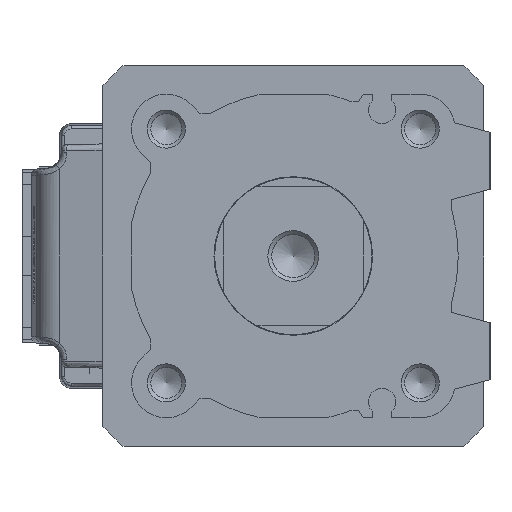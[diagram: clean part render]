
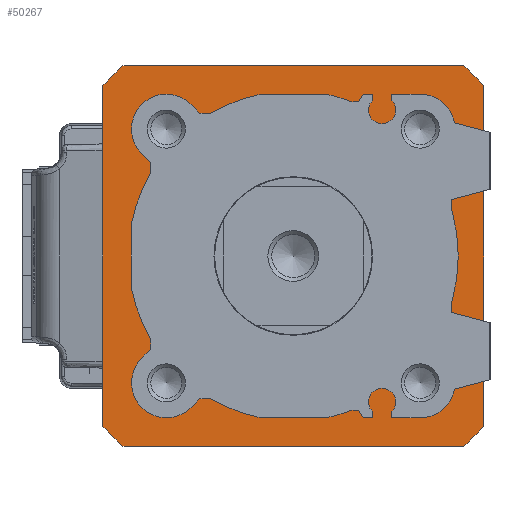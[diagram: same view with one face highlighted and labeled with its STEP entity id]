
A CAD part, left-side view. The second image highlights one B-rep face of the part: STEP entity #50267.
In plain terms, the highlighted planar face has unit normal (-1, 0, 0) as drawn and (0, 0, 1) by its records, which use the part's own axes.
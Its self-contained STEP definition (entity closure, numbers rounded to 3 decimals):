
#111 = AXIS2_PLACEMENT_3D ( 'NONE', #29904, #41138, #6128 ) ;
#1471 = CARTESIAN_POINT ( 'NONE',  ( -30., -26.834, 0. ) ) ;
#1758 = EDGE_CURVE ( 'NONE', #31457, #4411, #25301, .T. ) ;
#3181 = DIRECTION ( 'NONE',  ( -1., 0., 0. ) ) ;
#3407 = DIRECTION ( 'NONE',  ( 0., 0., 1. ) ) ;
#3618 = ORIENTED_EDGE ( 'NONE', *, *, #20402, .T. ) ;
#4411 = VERTEX_POINT ( 'NONE', #46721 ) ;
#4619 = ORIENTED_EDGE ( 'NONE', *, *, #39940, .T. ) ;
#4851 = AXIS2_PLACEMENT_3D ( 'NONE', #50404, #7432, #18952 ) ;
#5311 = AXIS2_PLACEMENT_3D ( 'NONE', #13782, #17330, #32648 ) ;
#5892 = LINE ( 'NONE', #10013, #9447 ) ;
#6128 = DIRECTION ( 'NONE',  ( 1., 0., 0. ) ) ;
#6196 = DIRECTION ( 'NONE',  ( 0., -1., 0. ) ) ;
#6588 = CARTESIAN_POINT ( 'NONE',  ( 0., 0., 0. ) ) ;
#6589 = CARTESIAN_POINT ( 'NONE',  ( 0., 0., 0. ) ) ;
#7432 = DIRECTION ( 'NONE',  ( 0., 0., 1. ) ) ;
#9447 = VECTOR ( 'NONE', #32209, 1000. ) ;
#9603 = DIRECTION ( 'NONE',  ( 0., 0., 1. ) ) ;
#9995 = CARTESIAN_POINT ( 'NONE',  ( 26.834, -30., 0. ) ) ;
#10013 = CARTESIAN_POINT ( 'NONE',  ( 30., -26.834, 0. ) ) ;
#10804 = CARTESIAN_POINT ( 'NONE',  ( -26.834, -30., 0. ) ) ;
#11203 = DIRECTION ( 'NONE',  ( 1., 0., 0. ) ) ;
#11620 = VECTOR ( 'NONE', #3181, 1000. ) ;
#11787 = CARTESIAN_POINT ( 'NONE',  ( 15.6, 0., 0. ) ) ;
#11922 = ORIENTED_EDGE ( 'NONE', *, *, #30148, .T. ) ;
#12103 = EDGE_CURVE ( 'NONE', #43085, #46256, #27358, .T. ) ;
#12665 = CARTESIAN_POINT ( 'NONE',  ( -15.6, 0., 0. ) ) ;
#13782 = CARTESIAN_POINT ( 'NONE',  ( 0., 0., 0. ) ) ;
#15464 = CARTESIAN_POINT ( 'NONE',  ( -26.834, -30., 0. ) ) ;
#15527 = EDGE_CURVE ( 'NONE', #19885, #23275, #24008, .T. ) ;
#15615 = CIRCLE ( 'NONE', #45828, 15.6 ) ;
#15663 = CIRCLE ( 'NONE', #111, 40.25 ) ;
#16297 = VERTEX_POINT ( 'NONE', #39850 ) ;
#17065 = FACE_OUTER_BOUND ( 'NONE', #45145, .T. ) ;
#17330 = DIRECTION ( 'NONE',  ( 0., 0., 1. ) ) ;
#18630 = DIRECTION ( 'NONE',  ( 0., 0., 1. ) ) ;
#18952 = DIRECTION ( 'NONE',  ( 1., 0., 0. ) ) ;
#19163 = AXIS2_PLACEMENT_3D ( 'NONE', #28694, #9603, #27943 ) ;
#19422 = AXIS2_PLACEMENT_3D ( 'NONE', #6588, #45191, #46626 ) ;
#19885 = VERTEX_POINT ( 'NONE', #26364 ) ;
#20070 = CARTESIAN_POINT ( 'NONE',  ( -30., 26.834, 0. ) ) ;
#20273 = EDGE_CURVE ( 'NONE', #47552, #37404, #15663, .T. ) ;
#20402 = EDGE_CURVE ( 'NONE', #26100, #16297, #46350, .T. ) ;
#20694 = ORIENTED_EDGE ( 'NONE', *, *, #20273, .T. ) ;
#20989 = ORIENTED_EDGE ( 'NONE', *, *, #39176, .F. ) ;
#21039 = VECTOR ( 'NONE', #6196, 1000. ) ;
#21808 = CARTESIAN_POINT ( 'NONE',  ( -30., 26.834, 0. ) ) ;
#23275 = VERTEX_POINT ( 'NONE', #20070 ) ;
#24008 = CIRCLE ( 'NONE', #19163, 40.25 ) ;
#24241 = EDGE_LOOP ( 'NONE', ( #34863, #20989 ) ) ;
#24586 = VECTOR ( 'NONE', #45590, 1000. ) ;
#25301 = CIRCLE ( 'NONE', #4851, 40.25 ) ;
#25609 = LINE ( 'NONE', #21808, #21039 ) ;
#25750 = ORIENTED_EDGE ( 'NONE', *, *, #39500, .T. ) ;
#26100 = VERTEX_POINT ( 'NONE', #43360 ) ;
#26364 = CARTESIAN_POINT ( 'NONE',  ( -26.834, 30., 0. ) ) ;
#27358 = CIRCLE ( 'NONE', #5311, 15.6 ) ;
#27432 = LINE ( 'NONE', #27682, #11620 ) ;
#27682 = CARTESIAN_POINT ( 'NONE',  ( 26.834, 30., 0. ) ) ;
#27943 = DIRECTION ( 'NONE',  ( 1., 0., 0. ) ) ;
#28205 = ORIENTED_EDGE ( 'NONE', *, *, #15527, .T. ) ;
#28694 = CARTESIAN_POINT ( 'NONE',  ( 0., 0., 0. ) ) ;
#28794 = FACE_BOUND ( 'NONE', #24241, .T. ) ;
#29904 = CARTESIAN_POINT ( 'NONE',  ( 0., 0., 0. ) ) ;
#30148 = EDGE_CURVE ( 'NONE', #4411, #26100, #5892, .T. ) ;
#31457 = VERTEX_POINT ( 'NONE', #9995 ) ;
#32209 = DIRECTION ( 'NONE',  ( 0., 1., 0. ) ) ;
#32648 = DIRECTION ( 'NONE',  ( 1., 0., 0. ) ) ;
#34573 = DIRECTION ( 'NONE',  ( 1., 0., 0. ) ) ;
#34863 = ORIENTED_EDGE ( 'NONE', *, *, #12103, .F. ) ;
#37404 = VERTEX_POINT ( 'NONE', #15464 ) ;
#38137 = LINE ( 'NONE', #10804, #24586 ) ;
#38433 = CARTESIAN_POINT ( 'NONE',  ( 0., 0., 0. ) ) ;
#39176 = EDGE_CURVE ( 'NONE', #46256, #43085, #15615, .T. ) ;
#39500 = EDGE_CURVE ( 'NONE', #37404, #31457, #38137, .T. ) ;
#39850 = CARTESIAN_POINT ( 'NONE',  ( 26.834, 30., 0. ) ) ;
#39940 = EDGE_CURVE ( 'NONE', #16297, #19885, #27432, .T. ) ;
#41138 = DIRECTION ( 'NONE',  ( 0., 0., 1. ) ) ;
#41393 = ORIENTED_EDGE ( 'NONE', *, *, #1758, .T. ) ;
#43085 = VERTEX_POINT ( 'NONE', #12665 ) ;
#43360 = CARTESIAN_POINT ( 'NONE',  ( 30., 26.834, 0. ) ) ;
#44152 = PLANE ( 'NONE',  #48987 ) ;
#45145 = EDGE_LOOP ( 'NONE', ( #28205, #48066, #20694, #25750, #41393, #11922, #3618, #4619 ) ) ;
#45191 = DIRECTION ( 'NONE',  ( 0., 0., 1. ) ) ;
#45590 = DIRECTION ( 'NONE',  ( 1., 0., 0. ) ) ;
#45828 = AXIS2_PLACEMENT_3D ( 'NONE', #38433, #3407, #34573 ) ;
#46256 = VERTEX_POINT ( 'NONE', #11787 ) ;
#46350 = CIRCLE ( 'NONE', #19422, 40.25 ) ;
#46626 = DIRECTION ( 'NONE',  ( 1., 0., 0. ) ) ;
#46721 = CARTESIAN_POINT ( 'NONE',  ( 30., -26.834, 0. ) ) ;
#46868 = EDGE_CURVE ( 'NONE', #23275, #47552, #25609, .T. ) ;
#47552 = VERTEX_POINT ( 'NONE', #1471 ) ;
#48066 = ORIENTED_EDGE ( 'NONE', *, *, #46868, .T. ) ;
#48987 = AXIS2_PLACEMENT_3D ( 'NONE', #6589, #18630, #11203 ) ;
#50267 = ADVANCED_FACE ( 'NONE', ( #28794, #17065 ), #44152, .T. ) ;
#50404 = CARTESIAN_POINT ( 'NONE',  ( 0., 0., 0. ) ) ;
